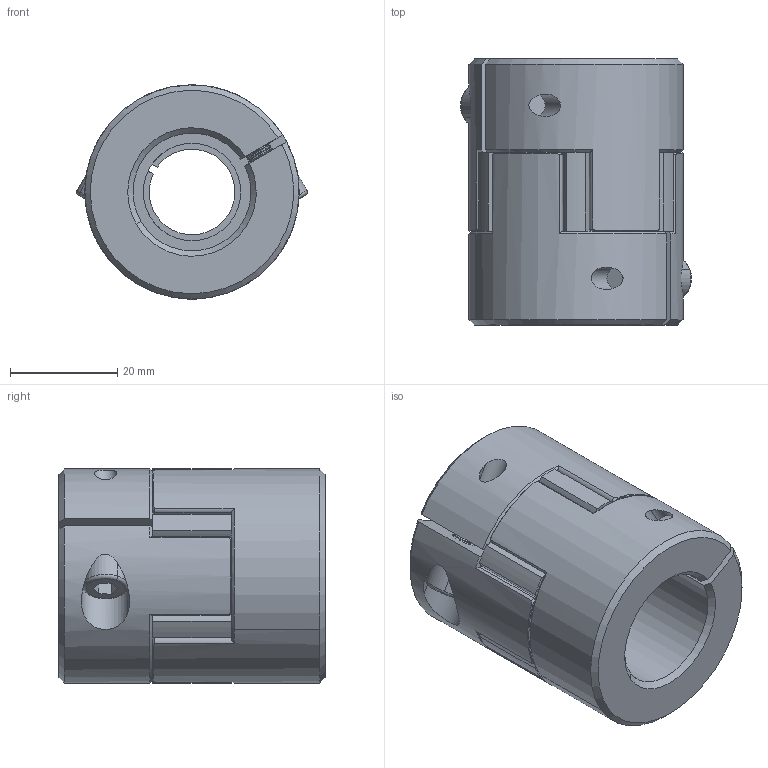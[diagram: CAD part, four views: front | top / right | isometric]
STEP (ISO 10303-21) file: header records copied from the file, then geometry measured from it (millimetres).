
FILE_DESCRIPTION (( 'STEP AP203' ), '1' );
FILE_NAME ('LF-B-D40L50-16-22.STEP', '2021-10-25T03:12:15', ( '' ), ( '' ), 'SwSTEP 2.0', 'SolidWorks 2018', '' );
FILE_SCHEMA (( 'CONFIG_CONTROL_DESIGN' ));
Length unit declared in the file: millimetre
Products named in the file (1): LF-B-D40L50-16-22
Bounding box: 43.11 x 49.7 x 40 mm (x, y, z)
Volume: 46877 mm3; surface area: 14710.1 mm2
Topology: 1 solids, 7 shells, 470 faces, 1113 edges, 660 vertices
Faces by surface type: cone 170, cylinder 169, plane 127, torus 4
Entity records: 13932 total; most frequent: CARTESIAN_POINT 2888, DIRECTION 2501, ORIENTED_EDGE 2218, EDGE_CURVE 1109, AXIS2_PLACEMENT_3D 1037, VERTEX_POINT 660, CIRCLE 566, EDGE_LOOP 487
